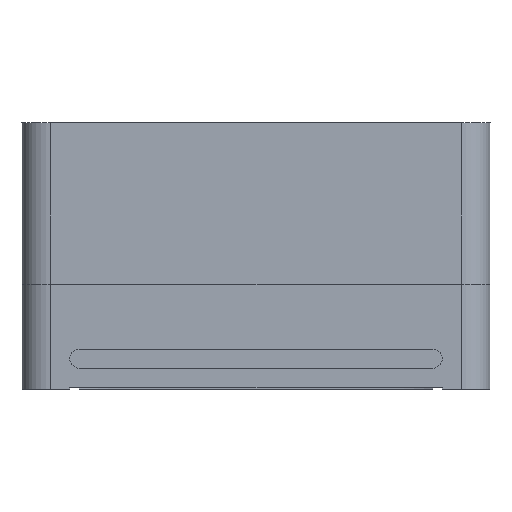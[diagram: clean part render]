
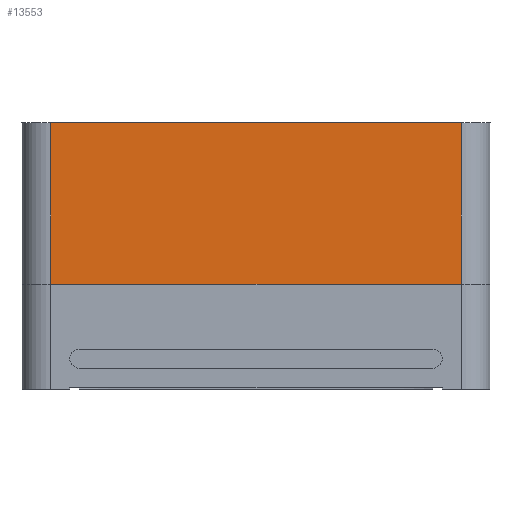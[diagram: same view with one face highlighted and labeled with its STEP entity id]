
A CAD part, left-side view. The second image highlights one B-rep face of the part: STEP entity #13553.
In plain terms, the highlighted planar face has unit normal (-1, 0, 0).
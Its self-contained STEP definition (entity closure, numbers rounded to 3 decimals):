
#635=LINE('',#19096,#2123);
#636=LINE('',#19101,#2124);
#637=LINE('',#19102,#2125);
#638=LINE('',#19103,#2126);
#2123=VECTOR('',#15540,10.);
#2124=VECTOR('',#15545,10.);
#2125=VECTOR('',#15546,10.);
#2126=VECTOR('',#15547,10.);
#3579=FACE_OUTER_BOUND('',#4329,.T.);
#4329=EDGE_LOOP('',(#9133,#9134,#9135,#9136));
#5556=VERTEX_POINT('',#19093);
#5557=VERTEX_POINT('',#19095);
#5558=VERTEX_POINT('',#19099);
#5559=VERTEX_POINT('',#19100);
#6955=EDGE_CURVE('',#5556,#5557,#635,.T.);
#6957=EDGE_CURVE('',#5558,#5559,#636,.T.);
#6958=EDGE_CURVE('',#5559,#5557,#637,.T.);
#6959=EDGE_CURVE('',#5558,#5556,#638,.T.);
#9133=ORIENTED_EDGE('',*,*,#6957,.T.);
#9134=ORIENTED_EDGE('',*,*,#6958,.T.);
#9135=ORIENTED_EDGE('',*,*,#6955,.F.);
#9136=ORIENTED_EDGE('',*,*,#6959,.F.);
#13082=PLANE('',#14354);
#13553=ADVANCED_FACE('',(#3579),#13082,.T.);
#14354=AXIS2_PLACEMENT_3D('',#19098,#15543,#15544);
#15540=DIRECTION('',(0.,-1.,0.));
#15543=DIRECTION('center_axis',(-1.,0.,0.));
#15544=DIRECTION('ref_axis',(0.,-1.,0.));
#15545=DIRECTION('',(0.,-1.,0.));
#15546=DIRECTION('',(0.,0.,1.));
#15547=DIRECTION('',(0.,0.,1.));
#19093=CARTESIAN_POINT('',(-35.,21.5,11.9));
#19095=CARTESIAN_POINT('',(-35.,-21.5,11.9));
#19096=CARTESIAN_POINT('',(-35.,10.75,11.9));
#19098=CARTESIAN_POINT('Origin',(-35.,21.5,-5.));
#19099=CARTESIAN_POINT('',(-35.,21.5,-5.));
#19100=CARTESIAN_POINT('',(-35.,-21.5,-5.));
#19101=CARTESIAN_POINT('',(-35.,-12.25,-5.));
#19102=CARTESIAN_POINT('',(-35.,-21.5,-5.));
#19103=CARTESIAN_POINT('',(-35.,21.5,-5.));
